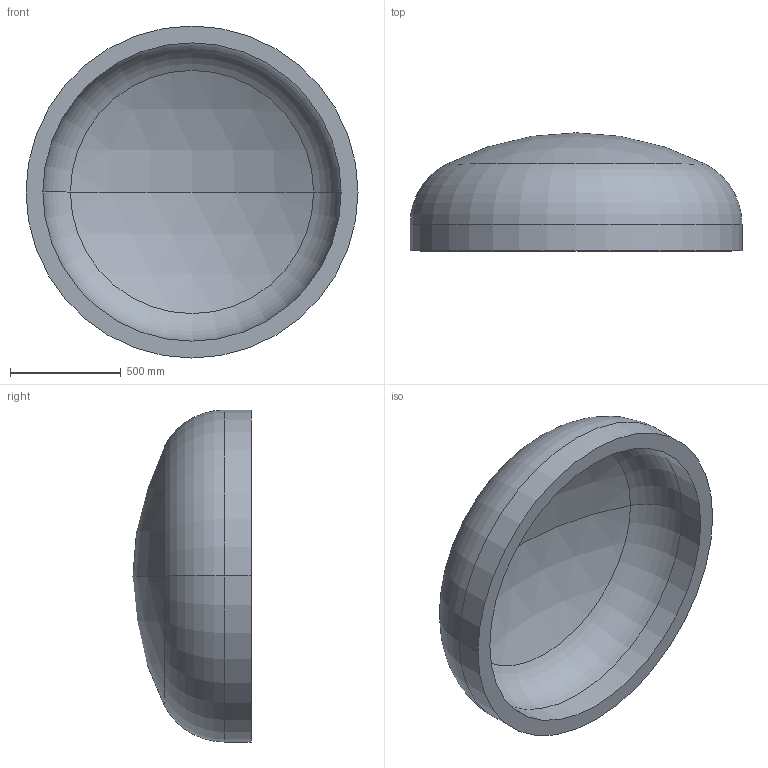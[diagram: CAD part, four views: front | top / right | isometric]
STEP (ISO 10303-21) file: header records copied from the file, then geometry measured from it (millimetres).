
FILE_DESCRIPTION (( 'STEP AP203' ), '1' );
FILE_NAME ('DIN 28013 Korbbogenform_-_Boden DIN 28013 - 1500 x 120 - I - s=76.step', '2016-07-01T10:53:43', ( '' ), ( '' ), 'SwSTEP 2.0', 'SolidWorks 2013', '' );
FILE_SCHEMA (( 'CONFIG_CONTROL_DESIGN' ));
Length unit declared in the file: millimetre
Products named in the file (1): DIN 28013 Korbbogenform_-_Boden DIN 28013 - 1500 x 120 - I - s=76
Bounding box: 1500 x 533.58 x 1500 mm (x, y, z)
Volume: 214933994.4 mm3; surface area: 6008249.3 mm2
Topology: 1 solids, 1 shells, 13 faces, 24 edges, 14 vertices
Faces by surface type: torus 4, cylinder 4, sphere 4, plane 1
Entity records: 407 total; most frequent: DIRECTION 72, CARTESIAN_POINT 52, ORIENTED_EDGE 48, AXIS2_PLACEMENT_3D 34, EDGE_CURVE 24, CIRCLE 20, EDGE_LOOP 14, VERTEX_POINT 14
